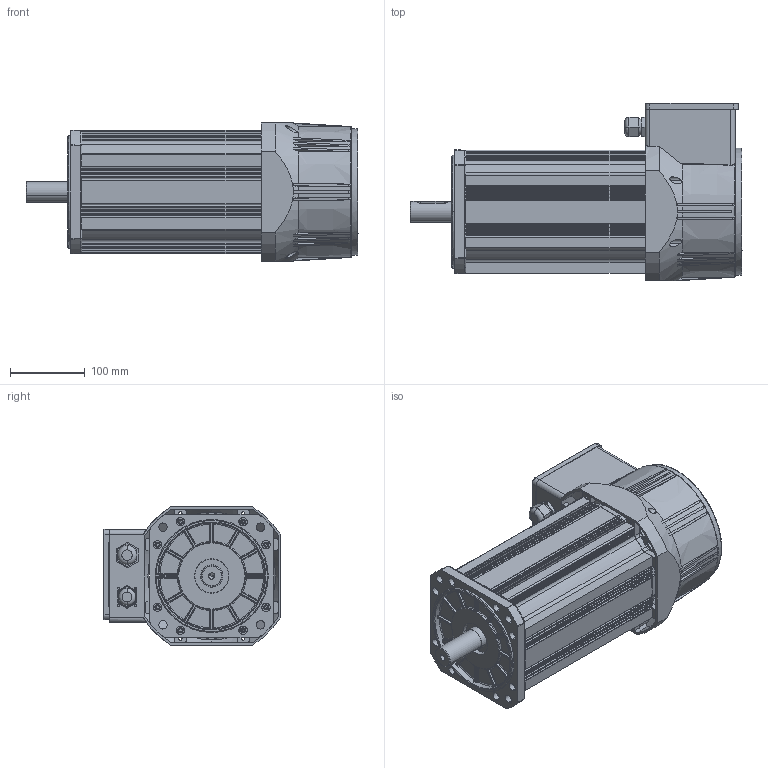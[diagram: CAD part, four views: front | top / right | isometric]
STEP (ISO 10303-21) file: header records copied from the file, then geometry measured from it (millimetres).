
FILE_DESCRIPTION (( 'STEP AP203' ), '1' );
FILE_NAME ('165L-B5-28J.STEP', '2021-06-28T02:28:15', ( '' ), ( '' ), 'SwSTEP 2.0', 'SolidWorks 2016', '' );
FILE_SCHEMA (( 'CONFIG_CONTROL_DESIGN' ));
Length unit declared in the file: millimetre
Products named in the file (11): M20X1.5蹟杶; 12珨极瑞欶; 165-Z-28J; 諉盄碟裔; 165L 儂褲B5; 165L-B5-28J; 180515-ヶ裔; M24X1.5蹟杶; 165-HG-001_-E-6306; ヶ裔蛌粣郪璃; 綴裔瑞欶郪璃
Assembly tree (10 placements, depth 3):
  165L-B5-28J
    165L 儂褲B5
    ヶ裔蛌粣郪璃
      180515-ヶ裔
      165-Z-28J
    綴裔瑞欶郪璃
      165-HG-001_-E-6306
      12珨极瑞欶
      諉盄碟裔
      M20X1.5蹟杶
      M24X1.5蹟杶
Bounding box: 445 x 238.01 x 185.01 mm (x, y, z)
Volume: 1666703.6 mm3; surface area: 867475.8 mm2
Topology: 7 solids, 12 shells, 2926 faces, 7633 edges, 4659 vertices
Faces by surface type: plane 786, bspline 781, cylinder 733, cone 537, sphere 50, torus 39
Entity records: 113517 total; most frequent: CARTESIAN_POINT 45664, ORIENTED_EDGE 14935, DIRECTION 12980, EDGE_CURVE 7471, AXIS2_PLACEMENT_3D 5011, VERTEX_POINT 4659, EDGE_LOOP 3231, VECTOR 2958
